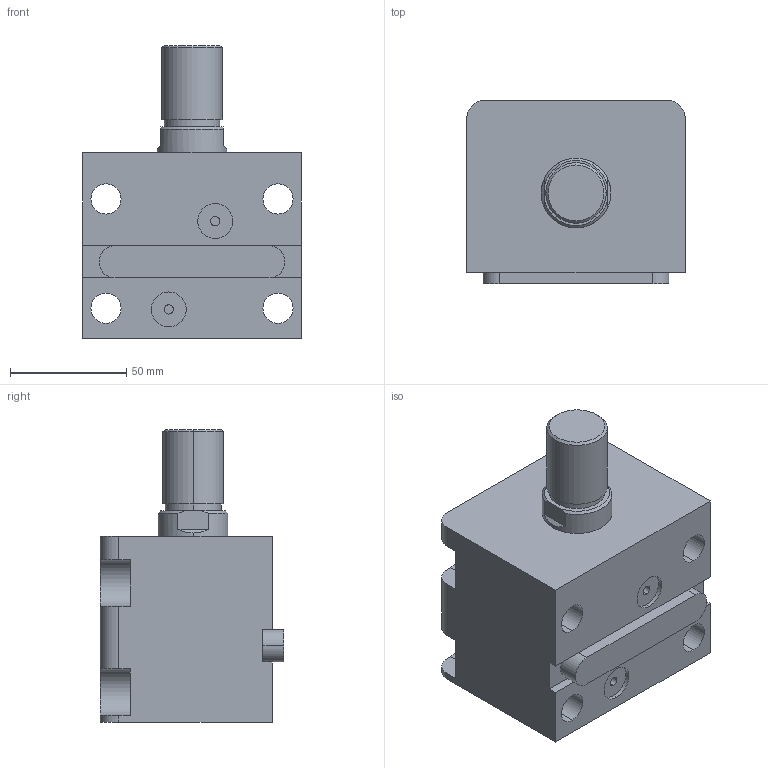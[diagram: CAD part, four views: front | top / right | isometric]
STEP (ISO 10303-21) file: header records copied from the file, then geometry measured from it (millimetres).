
FILE_DESCRIPTION (( 'STEP AP203' ), '1' );
FILE_NAME ('HTB-LAM50-20W.STEP', '2023-03-20T00:44:41', ( '微软用户' ), ( '微软中国' ), 'SwSTEP 2.0', 'SolidWorks 2012', '' );
FILE_SCHEMA (( 'CONFIG_CONTROL_DESIGN' ));
Length unit declared in the file: millimetre
Products named in the file (4): HTB-LAM50-20W; HTB-LWM50-瑩; HTB-LAM50-20W活塞杆; HTB-LAM50-20掛极
Assembly tree (3 placements, depth 2):
  HTB-LAM50-20W
    HTB-LAM50-20掛极
    HTB-LAM50-20W活塞杆
    HTB-LWM50-瑩
Bounding box: 94 x 79 x 126 mm (x, y, z)
Volume: 508444.9 mm3; surface area: 82977 mm2
Topology: 3 solids, 3 shells, 90 faces, 219 edges, 144 vertices
Faces by surface type: cylinder 41, plane 41, cone 4, torus 4
Entity records: 3107 total; most frequent: DIRECTION 497, CARTESIAN_POINT 487, ORIENTED_EDGE 438, EDGE_CURVE 219, AXIS2_PLACEMENT_3D 190, VERTEX_POINT 144, VECTOR 117, LINE 117
